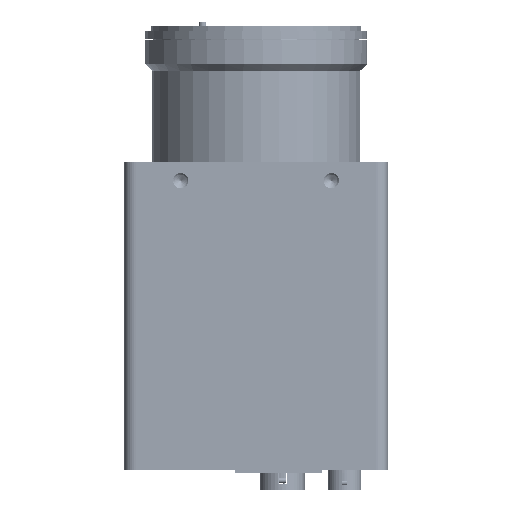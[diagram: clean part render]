
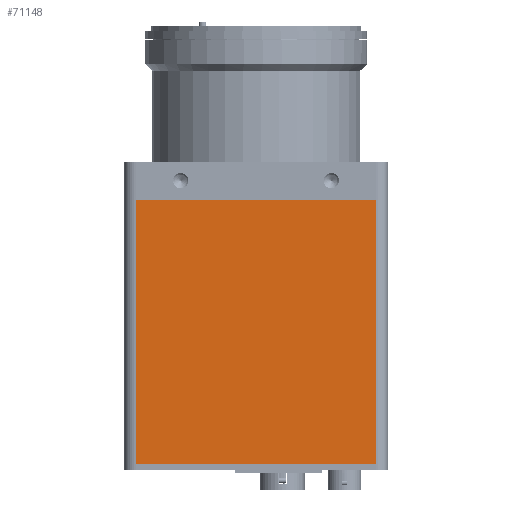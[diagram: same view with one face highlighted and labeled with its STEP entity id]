
A CAD part, left-side view. The second image highlights one B-rep face of the part: STEP entity #71148.
In plain terms, the highlighted planar face has unit normal (-1, 0, 0).
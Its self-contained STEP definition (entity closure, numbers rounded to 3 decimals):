
#20650 = CARTESIAN_POINT ( 'NONE',  ( -32., 35., -70.4 ) ) ;
#24569 = VERTEX_POINT ( 'NONE', #287404 ) ;
#32465 = EDGE_LOOP ( 'NONE', ( #237242, #281232, #244434, #274384 ) ) ;
#33795 = DIRECTION ( 'NONE',  ( 0., -1., 0. ) ) ;
#36771 = CARTESIAN_POINT ( 'NONE',  ( -32., 35., 0. ) ) ;
#37505 = EDGE_CURVE ( 'NONE', #218521, #24569, #65713, .T. ) ;
#65713 = LINE ( 'NONE', #36771, #161412 ) ;
#71148 = ADVANCED_FACE ( 'NONE', ( #270988 ), #156297, .T. ) ;
#85008 = VECTOR ( 'NONE', #278428, 1000. ) ;
#85967 = DIRECTION ( 'NONE',  ( 0., -1., 0. ) ) ;
#95401 = LINE ( 'NONE', #247868, #254698 ) ;
#98455 = CARTESIAN_POINT ( 'NONE',  ( -32., 32., -70.4 ) ) ;
#117178 = CARTESIAN_POINT ( 'NONE',  ( -32., -32., -70.4 ) ) ;
#126803 = LINE ( 'NONE', #264226, #148182 ) ;
#132516 = DIRECTION ( 'NONE',  ( -1., 0., 0. ) ) ;
#148182 = VECTOR ( 'NONE', #33795, 1000. ) ;
#156297 = PLANE ( 'NONE',  #226354 ) ;
#156978 = EDGE_CURVE ( 'NONE', #218521, #160112, #95401, .T. ) ;
#160112 = VERTEX_POINT ( 'NONE', #98455 ) ;
#161412 = VECTOR ( 'NONE', #195184, 1000. ) ;
#195184 = DIRECTION ( 'NONE',  ( 0., -1., 0. ) ) ;
#198069 = CARTESIAN_POINT ( 'NONE',  ( -32., 32., 0. ) ) ;
#203575 = CARTESIAN_POINT ( 'NONE',  ( -32., -32., -70.4 ) ) ;
#217052 = VERTEX_POINT ( 'NONE', #203575 ) ;
#218521 = VERTEX_POINT ( 'NONE', #198069 ) ;
#226354 = AXIS2_PLACEMENT_3D ( 'NONE', #20650, #132516, #85967 ) ;
#233911 = LINE ( 'NONE', #117178, #85008 ) ;
#237242 = ORIENTED_EDGE ( 'NONE', *, *, #258276, .T. ) ;
#244434 = ORIENTED_EDGE ( 'NONE', *, *, #37505, .F. ) ;
#247868 = CARTESIAN_POINT ( 'NONE',  ( -32., 32., -70.4 ) ) ;
#254698 = VECTOR ( 'NONE', #272460, 1000. ) ;
#258276 = EDGE_CURVE ( 'NONE', #160112, #217052, #126803, .T. ) ;
#262594 = EDGE_CURVE ( 'NONE', #217052, #24569, #233911, .T. ) ;
#264226 = CARTESIAN_POINT ( 'NONE',  ( -32., 35., -70.4 ) ) ;
#270988 = FACE_OUTER_BOUND ( 'NONE', #32465, .T. ) ;
#272460 = DIRECTION ( 'NONE',  ( 0., 0., -1. ) ) ;
#274384 = ORIENTED_EDGE ( 'NONE', *, *, #156978, .T. ) ;
#278428 = DIRECTION ( 'NONE',  ( 0., 0., 1. ) ) ;
#281232 = ORIENTED_EDGE ( 'NONE', *, *, #262594, .T. ) ;
#287404 = CARTESIAN_POINT ( 'NONE',  ( -32., -32., 0. ) ) ;
